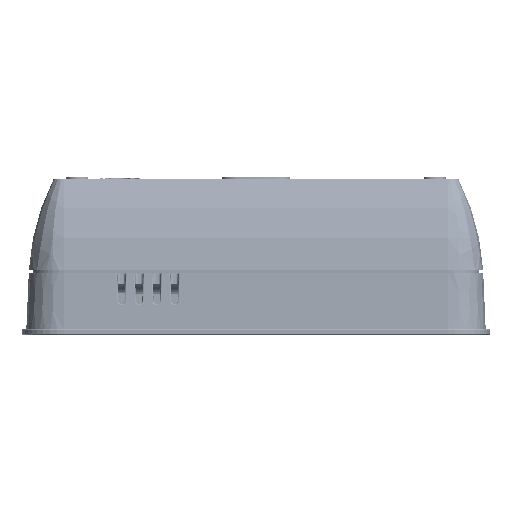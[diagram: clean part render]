
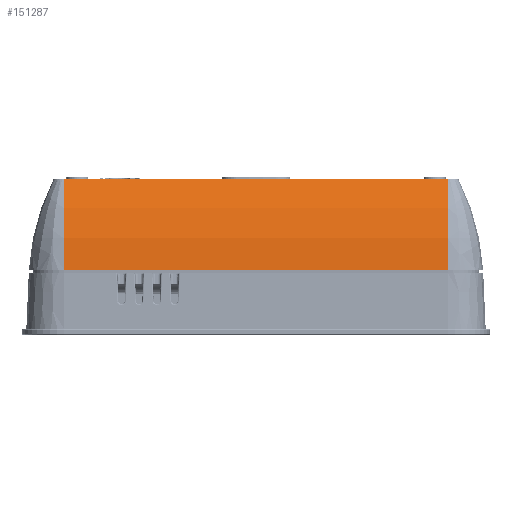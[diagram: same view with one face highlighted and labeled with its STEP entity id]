
A CAD part, front view. The second image highlights one B-rep face of the part: STEP entity #151287.
In plain terms, the highlighted cylindrical face has radius 41.094 mm (diameter 82.188 mm), a partial arc.
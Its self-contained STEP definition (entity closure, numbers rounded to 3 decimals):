
#15756=FACE_OUTER_BOUND('',#24181,.T.);
#24181=EDGE_LOOP('',(#120824,#120825,#120826,#120827));
#34570=LINE('',#245779,#51024);
#35458=LINE('',#249489,#51912);
#51024=VECTOR('',#182138,10.);
#51912=VECTOR('',#184748,10.);
#64606=CIRCLE('',#162178,41.094);
#64611=CIRCLE('',#162186,41.094);
#70781=VERTEX_POINT('',#245776);
#70782=VERTEX_POINT('',#245778);
#71653=VERTEX_POINT('',#249486);
#71654=VERTEX_POINT('',#249488);
#88114=EDGE_CURVE('',#70782,#70781,#34570,.F.);
#89449=EDGE_CURVE('',#71654,#71653,#35458,.T.);
#89454=EDGE_CURVE('',#71653,#70782,#64606,.T.);
#89459=EDGE_CURVE('',#71654,#70781,#64611,.T.);
#120824=ORIENTED_EDGE('',*,*,#89449,.T.);
#120825=ORIENTED_EDGE('',*,*,#89454,.T.);
#120826=ORIENTED_EDGE('',*,*,#88114,.T.);
#120827=ORIENTED_EDGE('',*,*,#89459,.F.);
#147210=CYLINDRICAL_SURFACE('',#162185,41.094);
#151287=ADVANCED_FACE('',(#15756),#147210,.T.);
#162178=AXIS2_PLACEMENT_3D('',#249505,#184757,#184758);
#162185=AXIS2_PLACEMENT_3D('',#249530,#184771,#184772);
#162186=AXIS2_PLACEMENT_3D('',#249531,#184773,#184774);
#182138=DIRECTION('',(-1.,0.,0.));
#184748=DIRECTION('',(-1.,0.,0.));
#184757=DIRECTION('center_axis',(1.,0.,0.));
#184758=DIRECTION('ref_axis',(0.,0.919,0.395));
#184771=DIRECTION('center_axis',(-1.,0.,0.));
#184772=DIRECTION('ref_axis',(0.,0.919,0.395));
#184773=DIRECTION('center_axis',(1.,0.,0.));
#184774=DIRECTION('ref_axis',(0.,0.919,0.395));
#245776=CARTESIAN_POINT('',(34.689,36.601,16.8));
#245778=CARTESIAN_POINT('',(-34.689,36.601,16.8));
#245779=CARTESIAN_POINT('',(34.689,36.601,16.8));
#249486=CARTESIAN_POINT('',(-34.689,41.041,0.5));
#249488=CARTESIAN_POINT('',(34.689,41.041,0.5));
#249489=CARTESIAN_POINT('',(34.689,41.041,0.5));
#249505=CARTESIAN_POINT('Origin',(-34.689,0.018,
-1.921));
#249530=CARTESIAN_POINT('Origin',(34.689,0.018,-1.921));
#249531=CARTESIAN_POINT('Origin',(34.689,0.018,-1.921));
